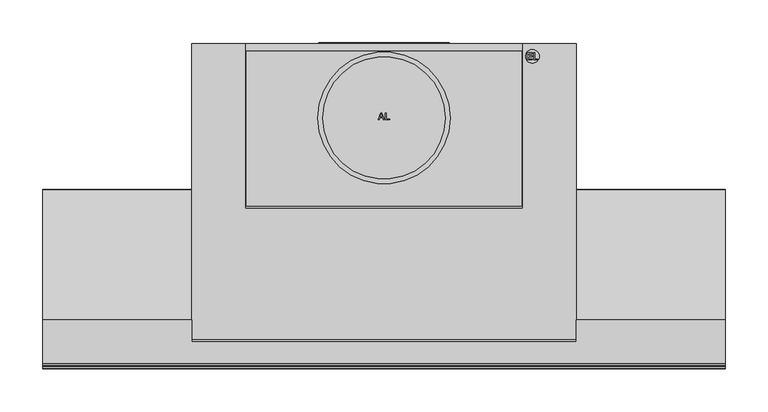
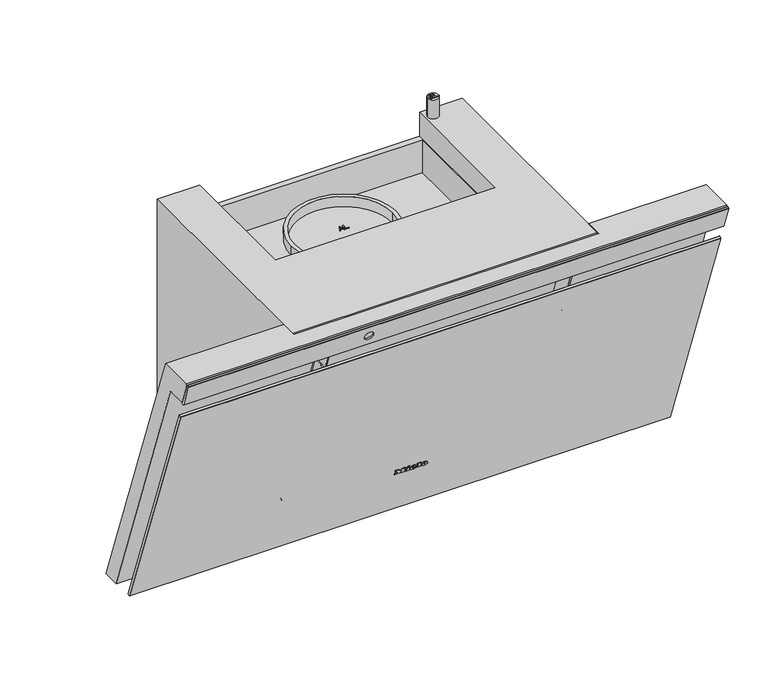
"""IFC4 building model written with IfcOpenShell, lengths in millimetres: proxy geometry, 12534020_D_DAH4870_OBSW : 28H4870B_D_12534020_DAH4870_OBSW."""

from ifc_helpers import new_model, si_unit, point, frame, frame_2d, origin, origin_with_axes, place, context, project, spatial, polyline, circle_curve, ellipse_curve, trimmed, segment, composite_curve, outline, extrude, faceted_brep, source, transform, mapped, element, save
from ifc_brep_helpers import plane_surface, cylinder_surface, revolved_surface, extruded_surface, advanced_brep


def specialty_equipment_5d2aa54a(model_context):
    return source(origin(), model_context, "Body", "SolidModel", [
        extrude(outline(polyline([(0.0, 0.0), (0.968, 0.0), (0.968, 5.352), (0.0, 5.352), (0.0, 6.696), (3.52, 6.696), (3.52, 5.352), (2.56, 5.352), (2.56, 1.9488753), (6.136, 6.696), (9.728, 1.8807777), (9.728, 5.352), (8.744, 5.352), (8.744, 6.696), (15.128, 6.696), (15.128, 5.352), (14.112, 5.352), (14.112, 0.0), (15.128, 0.0), (15.128, -1.304), (10.256, -1.304), (7.92, 1.696), (5.576, -1.304), (0.0, -1.304), (0.0, 0.0)])), frame((-24.271984, -261.1380975, 82.2921818), z_axis=(0.0, 0.9396926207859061, 0.34202014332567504), x_axis=(1.0, 0.0, 0.0)), (0.0, 0.0, 1.0), 1.0),
        extrude(outline(polyline([(0.0, 0.0), (0.96, 0.0), (0.96, 5.352), (0.0, 5.352), (0.0, 6.696), (6.488, 6.696), (6.488, 5.352), (5.504, 5.352), (5.504, -1.304), (0.0, -1.304), (0.0, 0.0)])), frame((8.192016, -261.1380975, 82.2921818), z_axis=(0.0, 0.9396926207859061, 0.34202014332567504), x_axis=(1.0, 0.0, 0.0)), (0.0, 0.0, 1.0), 1.0),
        extrude(outline(polyline([(0.0, 0.0), (1.4315306, 0.0), (1.4390414, -2.9920869), (0.0109086, -2.9993294), (0.0, 0.0)])), frame((-6.351984, -261.4226582, 83.074006), z_axis=(0.0, 0.9396926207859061, 0.342020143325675), x_axis=(0.42472021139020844, 0.30963927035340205, -0.8507269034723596)), (0.0, 0.0, 1.0), 1.0),
        extrude(outline(polyline([(0.4933907, 2.4141097), (1.7898156, 3.022309), (2.1941493, 2.1604399), (5.1636141, 3.5535222), (4.7592805, 4.4153913), (5.9760369, 4.9862153), (8.6568708, -0.728194), (7.4401145, -1.299018), (7.0459741, -0.4588767), (2.7800843, -2.4601583), (0.4933907, 2.4141097)])), frame((-6.351984, -261.4226582, 83.074006), z_axis=(0.0, 0.9396926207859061, 0.342020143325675), x_axis=(0.42472021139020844, 0.30963927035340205, -0.8507269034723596)), (0.0, 0.0, 1.0), 1.0),
        advanced_brep(
        [(2.392016, -259.4964008, 77.7816572), (2.392016, -259.7727531, 78.5409288), (7.744016, -259.7727531, 78.5409288), (-1.567984, -259.7727531, 78.5409288), (0.632016, -258.8479306, 76.0), (7.608016, -259.4964008, 77.7816572), (5.192016, -259.4964008, 77.7816572), (3.288016, -259.1899507, 76.9396926), (2.392016, -260.1229817, 79.5031741), (2.392016, -260.4212233, 80.3225861), (3.760016, -260.4212233, 80.3225861), (3.760016, -260.1229817, 79.5031741), (2.392016, -258.5567082, 78.1236774), (3.288016, -258.2502581, 77.2817128), (5.192016, -258.5567082, 78.1236774), (7.608016, -258.5567082, 78.1236774), (0.632016, -257.908238, 76.3420201), (-1.567984, -258.8330604, 78.882949), (7.744016, -258.8330604, 78.882949), (2.392016, -258.8330604, 78.882949), (2.392016, -259.1832891, 79.8451942), (3.760016, -259.1832891, 79.8451942), (3.760016, -259.4815306, 80.6646062), (2.392016, -259.4815306, 80.6646062)],
        [
            (0, 1),
            (1, 2),
            (2, 3, ellipse_curve(frame((3.088016, -259.7727531, 78.5409288), z_axis=(0.0, -0.9396926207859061, -0.34202014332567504), x_axis=(-1.0, 0.0, 0.0)), 4.656, 3.848)),
            (3, 4, circle_curve(frame((1.5280596, -259.8657825, 78.7965252), z_axis=(0.0, -0.9396926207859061, -0.34202014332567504), x_axis=(0.0, 0.34202014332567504, -0.9396926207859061)), 3.1079688)),
            (4, 5, circle_curve(frame((2.9948096, -260.5881291, 80.7811561), z_axis=(0.0, -0.9396926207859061, -0.34202014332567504), x_axis=(0.0, 0.34202014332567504, -0.9396926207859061)), 5.6098607)),
            (5, 6),
            (6, 7, circle_curve(frame((3.6790748, -259.7508638, 78.4807885), z_axis=(0.0, 0.9396926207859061, 0.34202014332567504), x_axis=(0.0, 0.34202014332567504, -0.9396926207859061)), 1.6859795)),
            (7, 0, circle_curve(frame((3.288016, -259.4964008, 77.7816572), z_axis=(0.0, 0.9396926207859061, 0.34202014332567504), x_axis=(0.0, 0.34202014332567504, -0.9396926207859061)), 0.896)),
            (8, 9),
            (9, 10, circle_curve(frame((3.076016, -260.4212233, 80.3225861), z_axis=(0.0, 0.9396926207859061, 0.34202014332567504), x_axis=(0.0, 0.34202014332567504, -0.9396926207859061)), 0.684)),
            (10, 11),
            (11, 8),
            (12, 13, circle_curve(frame((3.288016, -258.5567082, 78.1236774), z_axis=(0.0, -0.9396926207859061, -0.34202014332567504), x_axis=(0.0, 0.34202014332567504, -0.9396926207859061)), 0.896)),
            (13, 14, circle_curve(frame((3.6790748, -258.8111712, 78.8228087), z_axis=(0.0, -0.9396926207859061, -0.34202014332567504), x_axis=(0.0, 0.34202014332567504, -0.9396926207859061)), 1.6859795)),
            (14, 15),
            (15, 16, circle_curve(frame((2.9948096, -259.6484365, 81.1231762), z_axis=(0.0, 0.9396926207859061, 0.34202014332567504), x_axis=(0.0, 0.34202014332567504, -0.9396926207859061)), 5.6098607)),
            (16, 17, circle_curve(frame((1.5280596, -258.9260899, 79.1385454), z_axis=(0.0, 0.9396926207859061, 0.34202014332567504), x_axis=(0.0, 0.34202014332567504, -0.9396926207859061)), 3.1079688)),
            (17, 18, ellipse_curve(frame((3.088016, -258.8330604, 78.882949), z_axis=(0.0, 0.9396926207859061, 0.34202014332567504), x_axis=(-1.0, 0.0, 0.0)), 4.656, 3.848)),
            (18, 19),
            (19, 12),
            (20, 21),
            (21, 22),
            (22, 23, circle_curve(frame((3.076016, -259.4815306, 80.6646062), z_axis=(0.0, -0.9396926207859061, -0.34202014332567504), x_axis=(0.0, 0.34202014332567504, -0.9396926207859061)), 0.684)),
            (23, 20),
            (0, 12),
            (19, 1),
            (18, 2),
            (5, 15),
            (14, 6),
            (17, 3),
            (13, 7),
            (16, 4),
            (8, 20),
            (23, 9),
            (22, 10),
            (21, 11),
        ],
        [
            plane_surface(frame((2.392016, -259.7727531, 78.5409288), z_axis=(0.0, -0.9396926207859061, -0.34202014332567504), x_axis=(0.0, -0.34202014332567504, 0.9396926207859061))),
            plane_surface(frame((2.392016, -258.8330604, 78.882949), z_axis=(0.0, 0.9396926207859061, 0.34202014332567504), x_axis=(0.0, 0.34202014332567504, -0.9396926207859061))),
            plane_surface(frame((2.392016, -259.4964008, 77.7816572), z_axis=(1.0, 0.0, 0.0), x_axis=(0.0, 0.9396926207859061, 0.34202014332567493))),
            plane_surface(frame((2.392016, -259.7727531, 78.5409288), z_axis=(0.0, 0.34202014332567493, -0.9396926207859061), x_axis=(0.0, 0.9396926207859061, 0.34202014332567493))),
            plane_surface(frame((7.608016, -259.4964008, 77.7816572), z_axis=(0.0, -0.34202014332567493, 0.9396926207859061), x_axis=(0.0, 0.9396926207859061, 0.34202014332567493))),
            extruded_surface(trimmed(ellipse_curve(frame((3.088016, -257.8933678, 79.2249691), z_axis=(0.0, -0.9396926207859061, -0.34202014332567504), x_axis=(-1.0, 0.0, 0.0)), 4.656, 3.848), [point((7.744016, -257.8933678, 79.2249691))], [point((-1.567984, -257.8933678, 79.2249691))], True, "CARTESIAN"), (0.0, -0.9396926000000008, -0.34202009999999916), 0.9999999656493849),
            revolved_surface(polyline([(3.6790748, -258.2345321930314, 77.23850622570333), (3.6790748, -259.1742248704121, 76.89648606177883)]), (3.6790748, -258.8111712, 78.8228087), (0.0, 0.9396926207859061, 0.34202014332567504)),
            revolved_surface(polyline([(3.288016, -258.25025810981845, 77.28171282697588), (3.288016, -259.1899507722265, 76.93969266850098)]), (3.288016, -258.5567082, 78.1236774), (0.0, 0.9396926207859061, 0.34202014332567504)),
            cylinder_surface(frame((1.5280596, -258.9260899, 79.1385454), z_axis=(0.0, -0.9396926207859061, -0.34202014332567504), x_axis=(0.0, 0.34202014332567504, -0.9396926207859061)), 3.1079688),
            cylinder_surface(frame((2.9948096, -259.6484365, 81.1231762), z_axis=(0.0, -0.9396926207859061, -0.34202014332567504), x_axis=(0.0, 0.34202014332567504, -0.9396926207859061)), 5.6098607),
            plane_surface(frame((2.392016, -260.1229817, 79.5031741), z_axis=(1.0, 0.0, 0.0), x_axis=(0.0, 0.9396926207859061, 0.34202014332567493))),
            revolved_surface(polyline([(3.076016, -259.2475888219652, 80.02185644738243), (3.076016, -260.1872814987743, 79.67983628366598)]), (3.076016, -259.4815306, 80.6646062), (0.0, 0.9396926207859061, 0.34202014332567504)),
            plane_surface(frame((3.760016, -260.4212233, 80.3225861), z_axis=(-1.0, 0.0, 0.0), x_axis=(0.0, 0.9396926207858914, 0.3420201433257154))),
            plane_surface(frame((3.760016, -260.1229817, 79.5031741), z_axis=(0.0, -0.34202014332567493, 0.9396926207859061), x_axis=(0.0, 0.9396926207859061, 0.34202014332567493))),
        ],
        [
            (0, [[1, 2, 3, 4, 5, 6, 7, 8], [9, 10, 11, 12]]),
            (1, [[13, 14, 15, 16, 17, 18, 19, 20], [21, 22, 23, 24]]),
            (2, [[-1, 25, -20, 26]]),
            (3, [[-2, -26, -19, 27]]),
            (4, [[-6, 28, -15, 29]]),
            (5, [[-3, -27, -18, 30]]),
            (6, [[-7, -29, -14, 31]]),
            (7, [[-8, -31, -13, -25]]),
            (8, [[-4, -30, -17, 32]]),
            (9, [[-5, -32, -16, -28]]),
            (10, [[-9, 33, -24, 34]]),
            (11, [[-10, -34, -23, 35]]),
            (12, [[-11, -35, -22, 36]]),
            (13, [[-12, -36, -21, -33]]),
        ],
    ),
        advanced_brep(
        [(19.088016, -259.4964008, 77.7816572), (19.088016, -259.7727531, 78.5409288), (24.440016, -259.7727531, 78.5409288), (15.128016, -259.7727531, 78.5409288), (17.328016, -258.8479306, 76.0), (24.304016, -259.4964008, 77.7816572), (21.888016, -259.4964008, 77.7816572), (19.984016, -259.1899507, 76.9396926), (19.088016, -260.1229817, 79.5031741), (19.088016, -260.4212233, 80.3225861), (20.456016, -260.4212233, 80.3225861), (20.456016, -260.1229817, 79.5031741), (19.088016, -258.5567082, 78.1236774), (19.984016, -258.2502581, 77.2817128), (21.888016, -258.5567082, 78.1236774), (24.304016, -258.5567082, 78.1236774), (17.328016, -257.908238, 76.3420201), (15.128016, -258.8330604, 78.882949), (24.440016, -258.8330604, 78.882949), (19.088016, -258.8330604, 78.882949), (19.088016, -259.1832891, 79.8451942), (20.456016, -259.1832891, 79.8451942), (20.456016, -259.4815306, 80.6646062), (19.088016, -259.4815306, 80.6646062)],
        [
            (0, 1),
            (1, 2),
            (2, 3, ellipse_curve(frame((19.784016, -259.7727531, 78.5409288), z_axis=(0.0, -0.9396926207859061, -0.34202014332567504), x_axis=(-1.0, 0.0, 0.0)), 4.656, 3.848)),
            (3, 4, circle_curve(frame((18.2240596, -259.8657825, 78.7965252), z_axis=(0.0, -0.9396926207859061, -0.34202014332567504), x_axis=(0.0, 0.34202014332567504, -0.9396926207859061)), 3.1079688)),
            (4, 5, circle_curve(frame((19.6908096, -260.5881291, 80.7811561), z_axis=(0.0, -0.9396926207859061, -0.34202014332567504), x_axis=(0.0, 0.34202014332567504, -0.9396926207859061)), 5.6098607)),
            (5, 6),
            (6, 7, circle_curve(frame((20.3750748, -259.7508638, 78.4807885), z_axis=(0.0, 0.9396926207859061, 0.34202014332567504), x_axis=(0.0, 0.34202014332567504, -0.9396926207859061)), 1.6859795)),
            (7, 0, circle_curve(frame((19.984016, -259.4964008, 77.7816572), z_axis=(0.0, 0.9396926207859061, 0.34202014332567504), x_axis=(0.0, 0.34202014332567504, -0.9396926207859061)), 0.896)),
            (8, 9),
            (9, 10, circle_curve(frame((19.772016, -260.4212233, 80.3225861), z_axis=(0.0, 0.9396926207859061, 0.34202014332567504), x_axis=(0.0, 0.34202014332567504, -0.9396926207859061)), 0.684)),
            (10, 11),
            (11, 8),
            (12, 13, circle_curve(frame((19.984016, -258.5567082, 78.1236774), z_axis=(0.0, -0.9396926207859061, -0.34202014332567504), x_axis=(0.0, 0.34202014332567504, -0.9396926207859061)), 0.896)),
            (13, 14, circle_curve(frame((20.3750748, -258.8111712, 78.8228087), z_axis=(0.0, -0.9396926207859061, -0.34202014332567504), x_axis=(0.0, 0.34202014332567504, -0.9396926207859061)), 1.6859795)),
            (14, 15),
            (15, 16, circle_curve(frame((19.6908096, -259.6484365, 81.1231762), z_axis=(0.0, 0.9396926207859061, 0.34202014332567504), x_axis=(0.0, 0.34202014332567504, -0.9396926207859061)), 5.6098607)),
            (16, 17, circle_curve(frame((18.2240596, -258.9260899, 79.1385454), z_axis=(0.0, 0.9396926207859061, 0.34202014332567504), x_axis=(0.0, 0.34202014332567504, -0.9396926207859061)), 3.1079688)),
            (17, 18, ellipse_curve(frame((19.784016, -258.8330604, 78.882949), z_axis=(0.0, 0.9396926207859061, 0.34202014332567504), x_axis=(-1.0, 0.0, 0.0)), 4.656, 3.848)),
            (18, 19),
            (19, 12),
            (20, 21),
            (21, 22),
            (22, 23, circle_curve(frame((19.772016, -259.4815306, 80.6646062), z_axis=(0.0, -0.9396926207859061, -0.34202014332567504), x_axis=(0.0, 0.34202014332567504, -0.9396926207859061)), 0.684)),
            (23, 20),
            (0, 12),
            (19, 1),
            (18, 2),
            (5, 15),
            (14, 6),
            (17, 3),
            (13, 7),
            (16, 4),
            (8, 20),
            (23, 9),
            (22, 10),
            (21, 11),
        ],
        [
            plane_surface(frame((19.088016, -259.7727531, 78.5409288), z_axis=(0.0, -0.9396926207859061, -0.34202014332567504), x_axis=(0.0, -0.34202014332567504, 0.9396926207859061))),
            plane_surface(frame((19.088016, -258.8330604, 78.882949), z_axis=(0.0, 0.9396926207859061, 0.34202014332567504), x_axis=(0.0, 0.34202014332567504, -0.9396926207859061))),
            plane_surface(frame((19.088016, -259.4964008, 77.7816572), z_axis=(1.0, 0.0, 0.0), x_axis=(0.0, 0.9396926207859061, 0.34202014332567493))),
            plane_surface(frame((19.088016, -259.7727531, 78.5409288), z_axis=(0.0, 0.34202014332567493, -0.9396926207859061), x_axis=(0.0, 0.9396926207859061, 0.34202014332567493))),
            plane_surface(frame((24.304016, -259.4964008, 77.7816572), z_axis=(0.0, -0.34202014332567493, 0.9396926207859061), x_axis=(0.0, 0.9396926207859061, 0.34202014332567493))),
            extruded_surface(trimmed(ellipse_curve(frame((19.784016, -257.8933678, 79.2249691), z_axis=(0.0, -0.9396926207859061, -0.34202014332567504), x_axis=(-1.0, 0.0, 0.0)), 4.656, 3.848), [point((24.440016, -257.8933678, 79.2249691))], [point((15.128016, -257.8933678, 79.2249691))], True, "CARTESIAN"), (0.0, -0.9396926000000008, -0.34202009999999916), 0.9999999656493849),
            revolved_surface(polyline([(20.3750748, -258.2345321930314, 77.23850622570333), (20.3750748, -259.1742248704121, 76.89648606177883)]), (20.3750748, -258.8111712, 78.8228087), (0.0, 0.9396926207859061, 0.34202014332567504)),
            revolved_surface(polyline([(19.984016, -258.25025810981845, 77.28171282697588), (19.984016, -259.1899507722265, 76.93969266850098)]), (19.984016, -258.5567082, 78.1236774), (0.0, 0.9396926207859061, 0.34202014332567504)),
            cylinder_surface(frame((18.2240596, -258.9260899, 79.1385454), z_axis=(0.0, -0.9396926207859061, -0.34202014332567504), x_axis=(0.0, 0.34202014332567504, -0.9396926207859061)), 3.1079688),
            cylinder_surface(frame((19.6908096, -259.6484365, 81.1231762), z_axis=(0.0, -0.9396926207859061, -0.34202014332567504), x_axis=(0.0, 0.34202014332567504, -0.9396926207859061)), 5.6098607),
            plane_surface(frame((19.088016, -260.1229817, 79.5031741), z_axis=(1.0, 0.0, 0.0), x_axis=(0.0, 0.9396926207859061, 0.34202014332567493))),
            revolved_surface(polyline([(19.772016, -259.2475888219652, 80.02185644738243), (19.772016, -260.1872814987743, 79.67983628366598)]), (19.772016, -259.4815306, 80.6646062), (0.0, 0.9396926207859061, 0.34202014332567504)),
            plane_surface(frame((20.456016, -260.4212233, 80.3225861), z_axis=(-1.0, 0.0, 0.0), x_axis=(0.0, 0.9396926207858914, 0.3420201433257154))),
            plane_surface(frame((20.456016, -260.1229817, 79.5031741), z_axis=(0.0, -0.34202014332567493, 0.9396926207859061), x_axis=(0.0, 0.9396926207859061, 0.34202014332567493))),
        ],
        [
            (0, [[1, 2, 3, 4, 5, 6, 7, 8], [9, 10, 11, 12]]),
            (1, [[13, 14, 15, 16, 17, 18, 19, 20], [21, 22, 23, 24]]),
            (2, [[-1, 25, -20, 26]]),
            (3, [[-2, -26, -19, 27]]),
            (4, [[-6, 28, -15, 29]]),
            (5, [[-3, -27, -18, 30]]),
            (6, [[-7, -29, -14, 31]]),
            (7, [[-8, -31, -13, -25]]),
            (8, [[-4, -30, -17, 32]]),
            (9, [[-5, -32, -16, -28]]),
            (10, [[-9, 33, -24, 34]]),
            (11, [[-10, -34, -23, 35]]),
            (12, [[-11, -35, -22, 36]]),
            (13, [[-12, -36, -21, -33]]),
        ],
    ),
        extrude(outline(polyline([(-360.7463335, 358.8873647), (-360.415052, 359.5978002), (-357.6978047, 360.5867974), (-356.9874893, 360.2555718), (-226.6813347, 2.2423544), (-227.0128466, 1.5314248), (-229.7316219, 0.5418715), (-230.4393591, 0.8718948), (-360.7463335, 358.8873647)])), frame((-399.0, 0.0, 0.0), z_axis=(1.0, 0.0, 0.0), x_axis=(0.0, 1.0, 0.0)), (0.0, 0.0, 1.0), 798.0),
        advanced_brep(
        [(-198.5, -231.2422284, 80.5173231), (-198.5, -240.9843308, 107.2835295), (-198.5, -235.8312261, 109.4708926), (-198.5, -225.8887113, 82.1540576), (-198.5, -250.514978, 76.8365225), (-198.5, -258.1140866, 97.7149017), (-198.5, -258.4754112, 96.7430581), (-198.5, -251.4164577, 77.3487429), (-198.5, -254.9459345, 87.0459005), (-198.5, -230.9198317, 95.7906867)],
        [
            (0, 1, circle_curve(frame((-198.5, -236.1132796, 93.9004263), z_axis=(0.0, 0.9396926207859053, 0.3420201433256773), x_axis=(0.0, -0.3420201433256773, 0.9396926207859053)), 14.2420009)),
            (1, 2),
            (2, 3, circle_curve(frame((-198.5, -230.8599687, 95.8124751), z_axis=(0.0, -0.9396926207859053, -0.3420201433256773), x_axis=(0.0, -0.3420201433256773, 0.9396926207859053)), 14.5349844)),
            (3, 0),
            (4, 5, circle_curve(frame((-198.5, -254.3145323, 87.2757121), z_axis=(0.0, 0.9396926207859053, 0.3420201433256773), x_axis=(0.0, -0.3420201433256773, 0.9396926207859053)), 11.1091535)),
            (5, 1),
            (0, 4),
            (6, 7, circle_curve(frame((-198.5, -254.9459345, 87.0459005), z_axis=(0.0, 0.9396926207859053, 0.3420201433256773), x_axis=(0.0, -0.3420201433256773, 0.9396926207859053)), 10.3194996)),
            (7, 4),
            (4, 5, circle_curve(frame((-198.5, -254.3145323, 87.2757121), z_axis=(0.0, -0.9396926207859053, -0.3420201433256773), x_axis=(0.0, -0.3420201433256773, 0.9396926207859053)), 11.1091535)),
            (5, 6),
            (8, 7),
            (6, 8),
            (2, 9),
            (9, 3),
            (2, 3, circle_curve(frame((-198.5, -230.9198317, 95.7906867), z_axis=(0.0, 0.9396926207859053, 0.3420201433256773), x_axis=(0.0, -0.3420201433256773, 0.9396926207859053)), 14.535124)),
            (1, 0, circle_curve(frame((-198.5, -236.1132796, 93.9004263), z_axis=(0.0, 0.9396926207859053, 0.3420201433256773), x_axis=(0.0, -0.3420201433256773, 0.9396926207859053)), 14.2420009)),
            (7, 6, circle_curve(frame((-198.5, -254.9459345, 87.0459005), z_axis=(0.0, 0.9396926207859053, 0.3420201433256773), x_axis=(0.0, -0.3420201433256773, 0.9396926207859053)), 10.3194996)),
        ],
        [
            revolved_surface(polyline([(-198.5, -235.8312261, 109.4708926), (-198.5, -240.9843308, 107.2835295)]), (-198.5, -255.2773841, 86.9252627), (0.0, -0.9396926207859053, -0.3420201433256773)),
            revolved_surface(polyline([(-198.5, -240.9843308, 107.2835295), (-198.5, -258.1140866, 97.7149017)]), (-198.5, -255.2773841, 86.9252627), (0.0, -0.9396926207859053, -0.3420201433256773)),
            revolved_surface(polyline([(-198.5, -258.1140866, 97.7149017), (-198.5, -258.4754112, 96.7430581)]), (-198.5, -255.2773841, 86.9252627), (0.0, -0.9396926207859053, -0.3420201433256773)),
            plane_surface(frame((-198.5, -254.9459345, 87.0459005), z_axis=(0.0, -0.9396926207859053, -0.3420201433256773), x_axis=(0.0, -0.3420201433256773, 0.9396926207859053))),
            plane_surface(frame((-198.5, -230.9198317, 95.7906867), z_axis=(0.0, 0.9396926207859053, 0.3420201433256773), x_axis=(0.0, -0.3420201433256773, 0.9396926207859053))),
        ],
        [
            (0, [[1, 2, 3, 4]]),
            (1, [[5, 6, -1, 7]]),
            (2, [[8, 9, 10, 11]]),
            (3, [[12, -8, 13]]),
            (4, [[-3, 14, 15]]),
            (4, [[16, -15, -14]]),
            (0, [[17, -4, -16, -2]]),
            (1, [[-10, -7, -17, -6]]),
            (2, [[18, -11, -5, -9]]),
            (3, [[-13, -18, -12]]),
        ],
    ),
        advanced_brep(
        [(-198.5, -262.8067778, 105.2732379), (-198.5, -249.4001153, 68.4387353), (-198.5, -252.3199878, 80.8696014), (-198.5, -257.0531232, 93.8737841), (-198.5, -250.699917, 68.232867), (-198.5, -263.9348133, 104.5954458), (-198.5, -257.3173652, 86.4141564), (-198.5, -254.6865555, 87.3716928)],
        [
            (0, 1, circle_curve(frame((-198.5, -256.1034466, 86.8559866), z_axis=(0.0, 0.9396926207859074, 0.34202014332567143), x_axis=(0.0, -0.34202014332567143, 0.9396926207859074)), 19.5992294)),
            (1, 2),
            (2, 3, circle_curve(frame((-198.5, -254.6865555, 87.3716928), z_axis=(0.0, -0.9396926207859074, -0.34202014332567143), x_axis=(0.0, -0.34202014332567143, 0.9396926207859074)), 6.9193811)),
            (3, 0),
            (1, 0, circle_curve(frame((-198.5, -256.1034466, 86.8559866), z_axis=(0.0, 0.9396926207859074, 0.34202014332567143), x_axis=(0.0, -0.34202014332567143, 0.9396926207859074)), 19.5992294)),
            (3, 2, circle_curve(frame((-198.5, -254.6865555, 87.3716928), z_axis=(0.0, -0.9396926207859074, -0.34202014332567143), x_axis=(0.0, -0.34202014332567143, 0.9396926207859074)), 6.9193811)),
            (4, 5, circle_curve(frame((-198.5, -257.3173652, 86.4141564), z_axis=(0.0, 0.9396926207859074, 0.34202014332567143), x_axis=(0.0, -0.34202014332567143, 0.9396926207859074)), 19.3481241)),
            (5, 0),
            (1, 4),
            (5, 4, circle_curve(frame((-198.5, -257.3173652, 86.4141564), z_axis=(0.0, 0.9396926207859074, 0.34202014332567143), x_axis=(0.0, -0.34202014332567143, 0.9396926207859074)), 19.3481241)),
            (6, 5),
            (4, 6),
            (3, 7),
            (7, 2),
        ],
        [
            revolved_surface(polyline([(-198.5, -257.0531232, 93.8737841), (-198.5, -262.8067778, 105.2732379)]), (-198.5, -254.6865555, 87.3716928), (0.0, -0.9396926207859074, -0.34202014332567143)),
            revolved_surface(polyline([(-198.5, -262.8067778, 105.2732379), (-198.5, -263.9348133, 104.5954458)]), (-198.5, -254.6865555, 87.3716928), (0.0, -0.9396926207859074, -0.34202014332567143)),
            plane_surface(frame((-198.5, -257.3173652, 86.4141564), z_axis=(0.0, -0.9396926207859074, -0.34202014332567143), x_axis=(0.0, -0.34202014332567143, 0.9396926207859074))),
            plane_surface(frame((-198.5, -254.6865555, 87.3716928), z_axis=(0.0, 0.9396926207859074, 0.34202014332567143), x_axis=(0.0, -0.34202014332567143, 0.9396926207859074))),
        ],
        [
            (0, [[1, 2, 3, 4]]),
            (0, [[5, -4, 6, -2]]),
            (1, [[7, 8, -5, 9]]),
            (1, [[10, -9, -1, -8]]),
            (2, [[11, -7, 12]]),
            (2, [[-12, -10, -11]]),
            (3, [[-6, 13, 14]]),
            (3, [[-3, -14, -13]]),
        ],
    ),
        advanced_brep(
        [(176.5, -181.0, 17.47316), (176.5, -176.8867205, 17.47316), (176.5, -170.778799, 0.6917834), (176.5, -172.0796342, -1.0), (176.5, -181.0, -1.0), (399.0, -323.3945088, 420.0), (399.0, -375.0979614, 420.0), (399.0, -376.7893982, 417.5843506), (399.0, -364.9985039, 385.1891347), (399.0, -363.3053284, 384.0), (399.0, -340.650621, 384.0), (399.0, -335.6111939, 385.7236467), (399.0, -196.7717369, -1.0), (399.0, -172.0796342, -1.0), (399.0, -170.778799, 0.6917834), (-399.0, -375.0979614, 420.0), (-399.0, -376.7893982, 417.5843506), (-225.0, -349.0492238, 420.0), (-225.0, -336.4744757, 385.4283765), (-225.0, -335.6111939, 385.7236467), (-225.0, -335.5051875, 385.4283765), (-225.0, -310.8114669, 385.4283765), (-225.0, -323.3945088, 420.0), (225.0, -335.5051875, 385.4283765), (225.0, -310.8114669, 385.4283765), (-176.5, -181.0, 17.47316), (-176.5, -176.8867205, 17.47316), (-176.5, -181.0, -1.0), (-176.5, -172.0796342, -1.0), (-176.5, -170.778799, 0.6917834), (-399.0, -323.3945088, 420.0), (-399.0, -170.778799, 0.6917834), (-399.0, -172.0796342, -1.0), (-399.0, -196.7717369, -1.0), (-399.0, -335.6111939, 385.7236467), (-399.0, -340.650621, 384.0), (-399.0, -363.3053284, 384.0), (-399.0, -364.9985039, 385.1891347), (225.0, -323.3945088, 420.0), (225.0, -349.0492238, 420.0), (225.0, -336.4744757, 385.4283765), (225.0, -335.6111939, 385.7236467)],
        [
            (0, 1),
            (1, 2),
            (2, 3, circle_curve(frame((176.5, -172.0796342, 0.3460066), z_axis=(-1.0, 0.0, 0.0), x_axis=(0.0, 1.0, 0.0)), 1.3460066)),
            (3, 4),
            (4, 0),
            (5, 6),
            (6, 7),
            (7, 8),
            (8, 9),
            (9, 10),
            (10, 11),
            (11, 12),
            (12, 13),
            (13, 14, circle_curve(frame((399.0, -172.0796342, 0.3460066), z_axis=(1.0, 0.0, 0.0), x_axis=(0.0, 1.0, 0.0)), 1.3460066)),
            (14, 5),
            (6, 15),
            (15, 16),
            (16, 7),
            (17, 18),
            (18, 19),
            (19, 20),
            (20, 21),
            (21, 22),
            (22, 17),
            (23, 24),
            (24, 21),
            (20, 23),
            (0, 25),
            (25, 26),
            (26, 1),
            (25, 27),
            (27, 28),
            (28, 29, circle_curve(frame((-176.5, -172.0796342, 0.3460066), z_axis=(1.0, 0.0, 0.0), x_axis=(0.0, 1.0, 0.0)), 1.3460066)),
            (29, 26),
            (4, 27),
            (30, 31),
            (31, 32, circle_curve(frame((-399.0, -172.0796342, 0.3460066), z_axis=(-1.0, 0.0, 0.0), x_axis=(0.0, 1.0, 0.0)), 1.3460066)),
            (32, 33),
            (33, 34),
            (34, 35),
            (35, 36),
            (36, 37),
            (37, 16),
            (15, 30),
            (5, 38),
            (38, 39),
            (39, 17),
            (22, 30),
            (37, 8),
            (36, 9),
            (35, 10),
            (34, 19),
            (18, 40),
            (40, 41),
            (41, 11),
            (41, 23),
            (33, 12),
            (32, 28),
            (3, 13),
            (2, 14),
            (31, 29),
            (24, 38),
            (40, 39),
        ],
        [
            plane_surface(frame((176.5, -181.0, 17.47316), z_axis=(-1.0, 0.0, 0.0), x_axis=(0.0, 0.0, -1.0))),
            plane_surface(frame((399.0, -323.3945088, 420.0), z_axis=(1.0, 0.0, 0.0), x_axis=(0.0, -1.0, 0.0))),
            plane_surface(frame((399.0, -375.0979614, 420.0), z_axis=(0.0, -0.8191550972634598, 0.5735720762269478), x_axis=(-1.0, 0.0, 0.0))),
            plane_surface(frame((-225.0, -336.4744757, 385.4283765), z_axis=(1.0000000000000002, 0.0, 0.0), x_axis=(0.0, -0.34182105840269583, 0.9397650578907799))),
            plane_surface(frame((225.0, -336.4744757, 385.4283765), z_axis=(0.0, 0.0, 1.0), x_axis=(-1.0, 0.0, 0.0))),
            plane_surface(frame((-176.5, -48.0, 17.47316), z_axis=(0.0, 0.0, -1.0), x_axis=(-1.0, 0.0, 0.0))),
            plane_surface(frame((-176.5, -48.0, 17.47316), z_axis=(1.0, 0.0, 0.0), x_axis=(0.0, 0.0, -1.0))),
            plane_surface(frame((-176.5, -181.0, 17.47316), z_axis=(0.0, 1.0, 0.0), x_axis=(0.0, 0.0, -1.0))),
            plane_surface(frame((-399.0, -323.3945088, 420.0), z_axis=(-1.0, 0.0, 0.0), x_axis=(0.0, 1.0, 0.0))),
            plane_surface(frame((399.0, -323.3945088, 420.0), z_axis=(0.0, 0.0, 1.0), x_axis=(-1.0, 0.0, 0.0))),
            plane_surface(frame((399.0, -376.7893982, 417.5843506), z_axis=(0.0, -0.9396926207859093, -0.3420201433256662), x_axis=(-1.0, 0.0, 0.0))),
            plane_surface(frame((399.0, -364.9985039, 385.1891347), z_axis=(0.0, -0.5747305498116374, -0.818342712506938), x_axis=(-1.0, 0.0, 0.0))),
            plane_surface(frame((399.0, -363.3053284, 384.0), z_axis=(0.0, 0.0, -1.0), x_axis=(-1.0, 0.0, 0.0))),
            plane_surface(frame((399.0, -340.650621, 384.0), z_axis=(0.0, 0.3236258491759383, -0.9461851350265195), x_axis=(-1.0, 0.0, 0.0))),
            plane_surface(frame((399.0, -335.6111939, 385.7236467), z_axis=(0.0, -0.9411826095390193, -0.3378983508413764), x_axis=(-1.0, 0.0, 0.0))),
            plane_surface(frame((399.0, -196.7717369, -1.0), z_axis=(0.0, 0.0, -1.0), x_axis=(-1.0, 0.0, 0.0))),
            cylinder_surface(frame((-399.0, -172.0796342, 0.3460066), z_axis=(1.0, 0.0, 0.0), x_axis=(0.0, 1.0, 0.0)), 1.3460066),
            plane_surface(frame((399.0, -170.778799, 0.6917834), z_axis=(0.0, 0.9396926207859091, 0.3420201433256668), x_axis=(-1.0, 0.0, 0.0))),
            plane_surface(frame((225.0, -336.4744757, 385.4283765), z_axis=(-1.0000000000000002, 0.0, 0.0), x_axis=(0.0, 0.34182105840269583, -0.9397650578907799))),
            plane_surface(frame((225.0, -349.0492238, 420.0), z_axis=(0.0, 0.9397650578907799, 0.34182105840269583), x_axis=(-1.0, 0.0, 0.0))),
        ],
        [
            (0, [[1, 2, 3, 4, 5]]),
            (1, [[6, 7, 8, 9, 10, 11, 12, 13, 14, 15]]),
            (2, [[-7, 16, 17, 18]]),
            (3, [[19, 20, 21, 22, 23, 24]]),
            (4, [[25, 26, -22, 27]]),
            (5, [[28, 29, 30, -1]]),
            (6, [[-29, 31, 32, 33, 34]]),
            (7, [[-28, -5, 35, -31]]),
            (8, [[36, 37, 38, 39, 40, 41, 42, 43, -17, 44]]),
            (9, [[-6, 45, 46, 47, -24, 48, -44, -16]]),
            (10, [[-8, -18, -43, 49]]),
            (11, [[-9, -49, -42, 50]]),
            (12, [[-10, -50, -41, 51]]),
            (13, [[-11, -51, -40, 52, -20, 53, 54, 55]]),
            (14, [[-12, -55, 56, -27, -21, -52, -39, 57]]),
            (15, [[-13, -57, -38, 58, -32, -35, -4, 59]]),
            (16, [[-14, -59, -3, 60]]),
            (16, [[-37, 61, -33, -58]]),
            (17, [[-15, -60, -2, -30, -34, -61, -36, -48, -23, -26, 62, -45]]),
            (18, [[63, -46, -62, -25, -56, -54]]),
            (19, [[-63, -53, -19, -47]]),
        ],
    ),
        extrude(outline(polyline([(-306.7195362, 239.6880975), (-295.2497253, 239.1867523), (-287.4936218, 230.7224274), (-265.2623125, 169.642407), (-265.763092, 158.1728363), (-274.227725, 150.4175862), (-279.8658073, 148.3654921), (-312.3576165, 237.6360041), (-306.7195362, 239.6880975)])), frame((181.7499655, 0.0, 0.0), z_axis=(1.0, 0.0, 0.0), x_axis=(0.0, 1.0, 0.0)), (0.0, 0.0, 1.0), 4.7307792),
        extrude(outline(polyline([(-345.8296012, 357.410578), (-334.3598001, 356.9092332), (-332.8038582, 355.2112159), (-317.287762, 312.581092), (-317.287762, 307.3632968), (-320.9842642, 303.6667946), (-334.5886296, 298.7152105), (-354.767901, 354.157303), (-345.8296012, 357.410578)])), frame((-183.7499655, 0.0, 0.0), z_axis=(1.0, 0.0, 0.0), x_axis=(0.0, 1.0, 0.0)), (0.0, 0.0, 1.0), 2.0),
        advanced_brep(
        [(198.5, -225.9091808, 82.1477994), (198.5, -235.8509293, 109.4625291), (198.5, -240.9843308, 107.2835295), (198.5, -231.2422284, 80.5173231), (198.5, -258.1140866, 97.7149017), (198.5, -250.514978, 76.8365225), (198.5, -230.9018417, 95.8650227), (198.5, -258.4754112, 96.7430581), (198.5, -251.4164577, 77.3487429), (198.5, -254.9459345, 87.0459005)],
        [
            (0, 1, circle_curve(frame((198.5, -230.8800551, 95.8051643), z_axis=(0.0, -0.9396926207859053, -0.3420201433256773), x_axis=(0.0, -0.3420201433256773, 0.9396926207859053)), 14.5338641)),
            (1, 2),
            (2, 3, circle_curve(frame((198.5, -236.1132796, 93.9004263), z_axis=(0.0, 0.9396926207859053, 0.3420201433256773), x_axis=(0.0, -0.3420201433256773, 0.9396926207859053)), 14.2420009)),
            (3, 0),
            (2, 4),
            (4, 5, circle_curve(frame((198.5, -254.3145323, 87.2757121), z_axis=(0.0, 0.9396926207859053, 0.3420201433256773), x_axis=(0.0, -0.3420201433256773, 0.9396926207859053)), 11.1091535)),
            (5, 3),
            (6, 1),
            (0, 6),
            (0, 1, circle_curve(frame((198.5, -230.8800551, 95.8051643), z_axis=(0.0, 0.9396926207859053, 0.3420201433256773), x_axis=(0.0, -0.3420201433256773, 0.9396926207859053)), 14.5338641)),
            (3, 2, circle_curve(frame((198.5, -236.1132796, 93.9004263), z_axis=(0.0, 0.9396926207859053, 0.3420201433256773), x_axis=(0.0, -0.3420201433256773, 0.9396926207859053)), 14.2420009)),
            (5, 4, circle_curve(frame((198.5, -254.3145323, 87.2757121), z_axis=(0.0, 0.9396926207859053, 0.3420201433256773), x_axis=(0.0, -0.3420201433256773, 0.9396926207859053)), 11.1091535)),
            (4, 7),
            (7, 8, circle_curve(frame((198.5, -254.9459345, 87.0459005), z_axis=(0.0, 0.9396926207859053, 0.3420201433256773), x_axis=(0.0, -0.3420201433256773, 0.9396926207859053)), 10.3194996)),
            (8, 5),
            (8, 7, circle_curve(frame((198.5, -254.9459345, 87.0459005), z_axis=(0.0, 0.9396926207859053, 0.3420201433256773), x_axis=(0.0, -0.3420201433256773, 0.9396926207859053)), 10.3194996)),
            (7, 9),
            (9, 8),
        ],
        [
            revolved_surface(polyline([(198.5, -240.9843308, 107.2835295), (198.5, -235.8509293, 109.4625291)]), (198.5, -255.2773841, 86.9252627), (0.0, 0.9396926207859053, 0.3420201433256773)),
            revolved_surface(polyline([(198.5, -258.1140866, 97.7149017), (198.5, -240.9843308, 107.2835295)]), (198.5, -255.2773841, 86.9252627), (0.0, 0.9396926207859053, 0.3420201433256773)),
            plane_surface(frame((198.5, -230.8800551, 95.8051643), z_axis=(0.0, 0.9396926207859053, 0.3420201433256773), x_axis=(0.0, -0.3420201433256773, 0.9396926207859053))),
            revolved_surface(polyline([(198.5, -258.4754112, 96.7430581), (198.5, -258.1140866, 97.7149017)]), (198.5, -255.2773841, 86.9252627), (0.0, 0.9396926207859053, 0.3420201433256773)),
            plane_surface(frame((198.5, -254.9459345, 87.0459005), z_axis=(0.0, -0.9396926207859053, -0.3420201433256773), x_axis=(0.0, -0.3420201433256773, 0.9396926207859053))),
        ],
        [
            (0, [[1, 2, 3, 4]]),
            (1, [[-3, 5, 6, 7]]),
            (2, [[8, -1, 9]]),
            (2, [[-9, 10, -8]]),
            (0, [[-10, -4, 11, -2]]),
            (1, [[-11, -7, 12, -5]]),
            (3, [[-6, 13, 14, 15]]),
            (3, [[-12, -15, 16, -13]]),
            (4, [[-14, 17, 18]]),
            (4, [[-16, -18, -17]]),
        ],
    ),
        advanced_brep(
        [(198.5, -252.3199878, 80.8696014), (198.5, -257.0531232, 93.8737841), (198.5, -262.8067778, 105.2732379), (198.5, -249.4001153, 68.4387353), (198.5, -263.9348133, 104.5954458), (198.5, -250.699917, 68.232867), (198.5, -257.3173652, 86.4141564), (198.5, -254.6865555, 87.3716928)],
        [
            (0, 1, circle_curve(frame((198.5, -254.6865555, 87.3716928), z_axis=(0.0, -0.9396926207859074, -0.34202014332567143), x_axis=(0.0, -0.34202014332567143, 0.9396926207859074)), 6.9193811)),
            (1, 2),
            (2, 3, circle_curve(frame((198.5, -256.1034466, 86.8559866), z_axis=(0.0, 0.9396926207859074, 0.34202014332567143), x_axis=(0.0, -0.34202014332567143, 0.9396926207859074)), 19.5992294)),
            (3, 0),
            (1, 0, circle_curve(frame((198.5, -254.6865555, 87.3716928), z_axis=(0.0, -0.9396926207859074, -0.34202014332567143), x_axis=(0.0, -0.34202014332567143, 0.9396926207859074)), 6.9193811)),
            (3, 2, circle_curve(frame((198.5, -256.1034466, 86.8559866), z_axis=(0.0, 0.9396926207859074, 0.34202014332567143), x_axis=(0.0, -0.34202014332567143, 0.9396926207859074)), 19.5992294)),
            (2, 4),
            (4, 5, circle_curve(frame((198.5, -257.3173652, 86.4141564), z_axis=(0.0, 0.9396926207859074, 0.34202014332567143), x_axis=(0.0, -0.34202014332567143, 0.9396926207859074)), 19.3481241)),
            (5, 3),
            (5, 4, circle_curve(frame((198.5, -257.3173652, 86.4141564), z_axis=(0.0, 0.9396926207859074, 0.34202014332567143), x_axis=(0.0, -0.34202014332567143, 0.9396926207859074)), 19.3481241)),
            (4, 6),
            (6, 5),
            (7, 1),
            (0, 7),
        ],
        [
            revolved_surface(polyline([(198.5, -262.8067778, 105.2732379), (198.5, -257.0531232, 93.8737841)]), (198.5, -254.6865555, 87.3716928), (0.0, 0.9396926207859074, 0.34202014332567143)),
            revolved_surface(polyline([(198.5, -263.9348133, 104.5954458), (198.5, -262.8067778, 105.2732379)]), (198.5, -254.6865555, 87.3716928), (0.0, 0.9396926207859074, 0.34202014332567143)),
            plane_surface(frame((198.5, -257.3173652, 86.4141564), z_axis=(0.0, -0.9396926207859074, -0.34202014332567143), x_axis=(0.0, -0.34202014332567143, 0.9396926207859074))),
            plane_surface(frame((198.5, -254.6865555, 87.3716928), z_axis=(0.0, 0.9396926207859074, 0.34202014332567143), x_axis=(0.0, -0.34202014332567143, 0.9396926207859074))),
        ],
        [
            (0, [[1, 2, 3, 4]]),
            (0, [[5, -4, 6, -2]]),
            (1, [[-3, 7, 8, 9]]),
            (1, [[-6, -9, 10, -7]]),
            (2, [[-8, 11, 12]]),
            (2, [[-10, -12, -11]]),
            (3, [[13, -1, 14]]),
            (3, [[-14, -5, -13]]),
        ],
    ),
        extrude(outline(composite_curve([segment(trimmed(circle_curve(frame_2d((0.0, -6.0)), 6.0), [point((0.0, -12.0))], [point((0.0, 0.0))], False, "CARTESIAN"), True, "CONTINUOUS"), segment(trimmed(circle_curve(frame_2d((0.0, -6.0)), 6.0), [point((0.0, 0.0))], [point((0.0, -12.0))], False, "CARTESIAN"), True, "CONTINUOUS")], self_intersect=False)), frame((198.4796168, -289.1352634, 208.4825387), z_axis=(0.0, -0.3420201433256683, 0.9396926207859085), x_axis=(0.0, -0.9396926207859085, -0.3420201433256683)), (0.0, 0.0, 1.0), 113.1205625),
        extrude(outline(polyline([(-361.9104566, 384.0), (-340.650621, 384.0), (-338.7456903, 384.6933381), (-330.4700245, 361.956133), (-328.2328821, 362.7698496), (-315.2229538, 327.0017899), (-323.0667018, 324.1487808), (-318.916642, 312.746585), (-320.3109418, 304.8391181), (-327.8390565, 302.0991084), (-333.9712794, 307.2377416), (-361.9104566, 384.0)])), frame((178.2999838, 0.0, 0.0), z_axis=(1.0, 0.0, 0.0), x_axis=(0.0, 1.0, 0.0)), (0.0, 0.0, 1.0), 2.0),
        extrude(outline(polyline([(-361.9104566, 384.0), (-340.650621, 384.0), (-338.7456903, 384.6933381), (-330.4700245, 361.956133), (-328.2328821, 362.7698496), (-315.2229538, 327.0017899), (-323.0667018, 324.1487808), (-318.916642, 312.746585), (-320.3109418, 304.8391181), (-327.8390565, 302.0991084), (-333.9712794, 307.2377416), (-361.9104566, 384.0)])), frame((-180.2999838, 0.0, 0.0), z_axis=(1.0, 0.0, 0.0), x_axis=(0.0, 1.0, 0.0)), (0.0, 0.0, 1.0), 2.0),
        advanced_brep(
        [(399.0, -381.0099753, 417.484771), (399.0, -380.6786938, 418.1952065), (-399.0, -380.6786938, 418.1952065), (-399.0, -381.0099753, 417.484771), (399.0, -368.349332, 382.6999393), (399.0, -367.6388965, 382.3686578), (399.0, -364.9380121, 383.3516993), (399.0, -364.5963793, 384.0843332), (399.0, -377.2511311, 418.8529781), (399.0, -377.9614465, 419.1842036), (-399.0, -377.9614465, 419.1842036), (-399.0, -377.2511311, 418.8529781), (-399.0, -364.5963793, 384.0843332), (-399.0, -364.9380121, 383.3516993), (-399.0, -367.6388965, 382.3686578), (-399.0, -368.349332, 382.6999393), (-121.7000162, -374.6828297, 400.1010812), (-135.7000162, -374.6828297, 400.1010812), (-135.7000162, -372.6478495, 400.8417534), (-121.7000162, -372.6478495, 400.8417534)],
        [
            (0, 1),
            (1, 2),
            (2, 3),
            (3, 0),
            (0, 4),
            (4, 5),
            (5, 6),
            (6, 7),
            (7, 8),
            (8, 9),
            (9, 1),
            (2, 10),
            (10, 11),
            (11, 12),
            (12, 13),
            (13, 14),
            (14, 15),
            (15, 3),
            (15, 4),
            (16, 17, circle_curve(frame((-128.7000162, -374.6828297, 400.1010812), z_axis=(0.0, 0.9396926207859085, 0.3420201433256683), x_axis=(1.0, 0.0, 0.0)), 7.0)),
            (17, 16, circle_curve(frame((-128.7000162, -374.6828297, 400.1010812), z_axis=(0.0, 0.9396926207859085, 0.3420201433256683), x_axis=(1.0, 0.0, 0.0)), 7.0)),
            (14, 5),
            (13, 6),
            (12, 7),
            (11, 8),
            (10, 9),
            (18, 19, circle_curve(frame((-128.7000162, -372.6478495, 400.8417534), z_axis=(0.0, -0.9396926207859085, -0.3420201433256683), x_axis=(1.0, 0.0, 0.0)), 7.0)),
            (19, 18, circle_curve(frame((-128.7000162, -372.6478495, 400.8417534), z_axis=(0.0, -0.9396926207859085, -0.3420201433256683), x_axis=(1.0, 0.0, 0.0)), 7.0)),
            (18, 17),
            (16, 19),
        ],
        [
            plane_surface(frame((399.0, -380.6786938, 418.1952065), z_axis=(0.0, -0.9063077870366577, 0.42261826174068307), x_axis=(-1.0, 0.0, 0.0))),
            plane_surface(frame((399.0, -368.3552555, 382.7162141), z_axis=(1.0, 0.0, 0.0), x_axis=(0.0, 0.342020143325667, -0.939692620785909))),
            plane_surface(frame((-399.0, -368.3552555, 382.7162141), z_axis=(-1.0, 0.0, 0.0), x_axis=(0.0, -0.342020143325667, 0.939692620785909))),
            plane_surface(frame((399.0, -381.0099753, 417.484771), z_axis=(0.0, -0.939692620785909, -0.342020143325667), x_axis=(-1.0, 0.0, 0.0))),
            plane_surface(frame((399.0, -368.349332, 382.6999393), z_axis=(0.0, -0.42261826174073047, -0.9063077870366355), x_axis=(-1.0, 0.0, 0.0))),
            plane_surface(frame((399.0, -367.6388965, 382.3686578), z_axis=(0.0, 0.3420201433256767, -0.9396926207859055), x_axis=(-1.0, 0.0, 0.0))),
            plane_surface(frame((399.0, -364.9380121, 383.3516993), z_axis=(0.0, 0.906307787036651, -0.42261826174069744), x_axis=(-1.0, 0.0, 0.0))),
            plane_surface(frame((399.0, -364.5963793, 384.0843332), z_axis=(0.0, 0.93969262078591, 0.3420201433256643), x_axis=(-1.0, 0.0, 0.0))),
            plane_surface(frame((399.0, -377.2511311, 418.8529781), z_axis=(0.0, 0.4226182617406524, 0.9063077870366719), x_axis=(-1.0, 0.0, 0.0))),
            plane_surface(frame((399.0, -377.9614465, 419.1842036), z_axis=(0.0, -0.34202014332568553, 0.9396926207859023), x_axis=(-1.0, 0.0, 0.0))),
            plane_surface(frame((-121.7000162, -372.6478495, 400.8417534), z_axis=(0.0, -0.9396926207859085, -0.3420201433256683), x_axis=(0.0, 0.3420201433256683, -0.9396926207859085))),
            revolved_surface(polyline([(-121.7000162, -374.6828296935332, 400.10108118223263), (-121.7000162, -372.6478495, 400.8417534)]), (-128.7000162, -372.6478495, 400.8417534), (0.0, -0.9396926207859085, -0.3420201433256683)),
        ],
        [
            (0, [[1, 2, 3, 4]]),
            (1, [[5, 6, 7, 8, 9, 10, 11, -1]]),
            (2, [[-3, 12, 13, 14, 15, 16, 17, 18]]),
            (3, [[-5, -4, -18, 19], [20, 21]]),
            (4, [[-6, -19, -17, 22]]),
            (5, [[-7, -22, -16, 23]]),
            (6, [[-8, -23, -15, 24]]),
            (7, [[-9, -24, -14, 25]]),
            (8, [[-10, -25, -13, 26]]),
            (9, [[-11, -26, -12, -2]]),
            (10, [[27, 28]]),
            (11, [[-27, 29, -20, 30]]),
            (11, [[-28, -30, -21, -29]]),
        ],
    ),
        faceted_brep([(225.0000193, -346.0, 420.0), (225.0000193, -193.2332597, 0.0), (225.0000193, 0.0, 0.0), (225.0000193, 0.0, 420.0), (-225.0000193, -346.0, 420.0), (-225.0000193, 0.0, 420.0), (-225.0000193, 0.0, 0.0), (-225.0000193, -193.2332597, 0.0), (176.5, -48.0, 0.0), (-176.5, -48.0, 0.0), (-176.5, -181.0, 0.0), (176.5, -181.0, 0.0), (125.0, -12.0, 0.0), (-125.0, -12.0, 0.0), (-125.0, -38.0, 0.0), (125.0, -38.0, 0.0), (-162.2229137, 0.0, 420.0), (-162.2229137, 0.0, 382.5), (162.2229137, 0.0, 382.5), (162.2229137, 0.0, 420.0), (-160.9556997, -9.0, 332.0), (160.9556997, -9.0, 332.0), (160.9556997, -9.0, 382.5), (-160.9556997, -9.0, 382.5), (-160.9556997, -190.0399284, 332.0), (-160.9556997, -190.0399284, 382.5), (160.9556997, -190.0399284, 332.0), (160.9556997, -190.0399284, 382.5), (176.5, -48.0, 11.0), (-176.5, -48.0, 11.0), (125.0, -12.0, 11.0), (-125.0, -12.0, 11.0), (162.2229137, -193.2332597, 420.0), (-162.2229137, -193.2332597, 420.0), (176.5, -181.0, 11.0), (-176.5, -181.0, 11.0), (125.0, -38.0, 11.0), (-125.0, -38.0, 11.0), (162.2229137, -193.2332597, 382.5), (-162.2229137, -193.2332597, 382.5)], [[[0, 1, 2, 3]], [[4, 5, 6, 7]], [[1, 0, 4, 7]], [[2, 1, 7, 6], [8, 9, 10, 11], [12, 13, 14, 15]], [[3, 2, 6, 5, 16, 17, 18, 19]], [[20, 21, 22, 23]], [[24, 20, 23, 25]], [[21, 26, 27, 22]], [[28, 29, 9, 8]], [[30, 31, 13, 12]], [[0, 3, 19, 32, 33, 16, 5, 4]], [[21, 20, 24, 26]], [[26, 24, 25, 27]], [[28, 34, 35, 29]], [[29, 35, 10, 9]], [[35, 34, 11, 10]], [[34, 28, 8, 11]], [[30, 36, 37, 31]], [[31, 37, 14, 13]], [[37, 36, 15, 14]], [[36, 30, 12, 15]], [[32, 38, 39, 33]], [[39, 38, 18, 17], [23, 22, 27, 25]], [[38, 32, 19, 18]], [[33, 39, 17, 16]]]),
        extrude(outline(polyline([(125.0, -12.0), (125.0, -38.0), (-125.0, -38.0), (-125.0, -12.0), (125.0, -12.0)]), holes=[polyline([(-119.0, -31.2), (119.0, -31.2), (119.0, -18.8), (-119.0, -18.8), (-119.0, -31.2)])]), origin_with_axes(), (0.0, 0.0, 1.0), 11.0),
        extrude(outline(polyline([(119.0, -18.8), (119.0, -31.2), (-119.0, -31.2), (-119.0, -18.8), (119.0, -18.8)])), origin_with_axes(), (0.0, 0.0, 1.0), 11.0),
        extrude(outline(polyline([(176.5, -48.0), (176.5, -181.0), (-176.5, -181.0), (-176.5, -48.0), (176.5, -48.0)]), holes=[polyline([(167.5, -57.0), (-167.5, -57.0), (-167.5, -172.0), (167.5, -172.0), (167.5, -57.0)])]), origin_with_axes(), (0.0, 0.0, 1.0), 11.0),
        extrude(outline(polyline([(167.5, -57.0), (167.5, -172.0), (-167.5, -172.0), (-167.5, -57.0), (167.5, -57.0)])), frame((0.0, 0.0, 1.0), z_axis=(0.0, 0.0, 1.0), x_axis=(1.0, 0.0, 0.0)), (0.0, 0.0, 1.0), 10.0),
        extrude(outline(polyline([(-167.5, -98.0), (-124.5000193, -98.0), (-124.5000193, -131.0), (-167.5, -131.0), (-167.5, -98.0)]), holes=[polyline([(-131.0000193, -104.5), (-160.0000193, -104.5), (-160.0000193, -124.5), (-131.0000193, -124.5), (-131.0000193, -104.5)])]), origin_with_axes(), (0.0, 0.0, 1.0), 1.0),
        extrude(outline(polyline([(-131.0000193, -104.5), (-131.0000193, -124.5), (-140.0000193, -124.5), (-140.0000193, -104.5), (-131.0000193, -104.5)])), origin_with_axes(), (0.0, 0.0, 1.0), 1.0),
        extrude(outline(composite_curve([segment(trimmed(circle_curve(frame_2d((0.0, -86.9971466)), 77.2963157), [point((-77.2963157, -86.9971466))], [point((77.2963157, -86.9971466))], False, "CARTESIAN"), True, "CONTINUOUS"), segment(trimmed(circle_curve(frame_2d((0.0, -86.9971466)), 77.2963157), [point((77.2963157, -86.9971466))], [point((-77.2963157, -86.9971466))], False, "CARTESIAN"), True, "CONTINUOUS")], self_intersect=False), holes=[composite_curve([segment(trimmed(circle_curve(frame_2d((0.0, -86.9971466)), 71.617422), [point((-71.617422, -86.9971466))], [point((71.617422, -86.9971466))], True, "CARTESIAN"), True, "CONTINUOUS"), segment(trimmed(circle_curve(frame_2d((0.0, -86.9971466)), 71.617422), [point((71.617422, -86.9971466))], [point((-71.617422, -86.9971466))], True, "CARTESIAN"), True, "CONTINUOUS")], self_intersect=False)]), frame((0.0, 0.0, 332.0), z_axis=(0.0, 0.0, 1.0), x_axis=(1.0, 0.0, 0.0)), (0.0, 0.0, 1.0), 15.9326282),
        extrude(outline(polyline([(-6.835738, -89.2416424), (-3.627807, -81.2051375), (-2.7723587, -81.2051375), (0.4336102, -89.2416424), (-0.6278519, -89.2416424), (-1.5460854, -86.7302346), (-4.8580044, -86.7302346), (-5.7762378, -89.2416424), (-6.835738, -89.2416424)]), holes=[polyline([(-4.4891414, -85.7256715), (-1.9129864, -85.7256715), (-2.6389402, -83.7498999), (-3.2020449, -82.2097006), (-3.7023644, -83.5772407), (-4.4891414, -85.7256715)])]), frame((0.0, 0.0, 347.9326282), z_axis=(0.0, 0.0, 1.0), x_axis=(1.0, 0.0, 0.0)), (0.0, 0.0, 1.0), 1.0),
        extrude(outline(polyline([(1.5068447, -89.2416424), (1.5068447, -81.2051375), (2.5114078, -81.2051375), (2.5114078, -88.2370793), (6.5296602, -88.2370793), (6.5296602, -89.2416424), (1.5068447, -89.2416424)])), frame((0.0, 0.0, 347.9326282), z_axis=(0.0, 0.0, 1.0), x_axis=(1.0, 0.0, 0.0)), (0.0, 0.0, 1.0), 1.0),
        extrude(outline(composite_curve([segment(trimmed(circle_curve(frame_2d((192.5519409, 0.0)), 76.1990432), [point((192.5519409, -76.1990432))], [point((192.5519409, 76.1990432))], False, "CARTESIAN"), True, "CONTINUOUS"), segment(trimmed(circle_curve(frame_2d((192.5519409, 0.0)), 76.1990432), [point((192.5519409, 76.1990432))], [point((192.5519409, -76.1990432))], False, "CARTESIAN"), True, "CONTINUOUS")], self_intersect=False)), frame((0.0, 0.0, 0.0), z_axis=(0.0, 1.0, 0.0), x_axis=(0.0, 0.0, 1.0)), (0.0, 0.0, 1.0), 1.0),
        extrude(outline(composite_curve([segment(trimmed(circle_curve(frame_2d((173.4999807, -15.0000005)), 8.0), [point((165.4999807, -15.0000005))], [point((181.4999807, -15.0000005))], False, "CARTESIAN"), True, "CONTINUOUS"), segment(trimmed(circle_curve(frame_2d((173.4999807, -15.0000005)), 8.0), [point((181.4999807, -15.0000005))], [point((165.4999807, -15.0000005))], False, "CARTESIAN"), True, "CONTINUOUS")], self_intersect=False)), frame((0.0, 0.0, 420.0), z_axis=(0.0, 0.0, 1.0), x_axis=(1.0, 0.0, 0.0)), (0.0, 0.0, 1.0), 30.0),
        extrude(outline(polyline([(167.5981725, -19.0000005), (167.5981725, -10.9634957), (173.3744104, -10.9634957), (173.3744104, -11.9680588), (168.6027356, -11.9680588), (168.6027356, -14.3538961), (173.1232696, -14.3538961), (173.1232696, -15.3584592), (168.6027356, -15.3584592), (168.6027356, -17.9954374), (173.4999807, -17.9954374), (173.4999807, -19.0000005), (167.5981725, -19.0000005)])), frame((0.0, 0.0, 450.0), z_axis=(0.0, 0.0, 1.0), x_axis=(1.0, 0.0, 0.0)), (0.0, 0.0, 1.0), 1.0),
        extrude(outline(polyline([(175.0068254, -19.0000005), (175.0068254, -10.9634957), (176.0113885, -10.9634957), (176.0113885, -17.9954374), (180.0296409, -17.9954374), (180.0296409, -19.0000005), (175.0068254, -19.0000005)])), frame((0.0, 0.0, 450.0), z_axis=(0.0, 0.0, 1.0), x_axis=(1.0, 0.0, 0.0)), (0.0, 0.0, 1.0), 1.0),
    ])


if __name__ == "__main__":
    model = new_model("IFC4")
    model_context = context("Model", 3, world=origin())
    ifc_project = project(units=[si_unit("LENGTHUNIT", "METRE", prefix="MILLI")], contexts=[model_context])
    site = spatial("IfcSite", under=ifc_project)
    building = spatial("IfcBuilding", under=site)
    placement = place(None, origin())
    specialty_equipment_shape = specialty_equipment_5d2aa54a(model_context)
    element("IfcBuildingElementProxy", 1, Name="12534020_D_DAH4870_OBSW : 28H4870B_D_12534020_DAH4870_OBSW", ObjectType="12534020_D_DAH4870_OBSW : 28H4870B_D_12534020_DAH4870_OBSW", at=placement, inside=building, context=model_context, shape_type="MappedRepresentation", body=[
        mapped(specialty_equipment_shape, transform((0.0, 0.0, 0.0), x_axis=(1.0, 0.0, 0.0), y_axis=(0.0, 1.0, 0.0), z_axis=(0.0, 0.0, 1.0))),
    ])
    save(model, "model.ifc")
